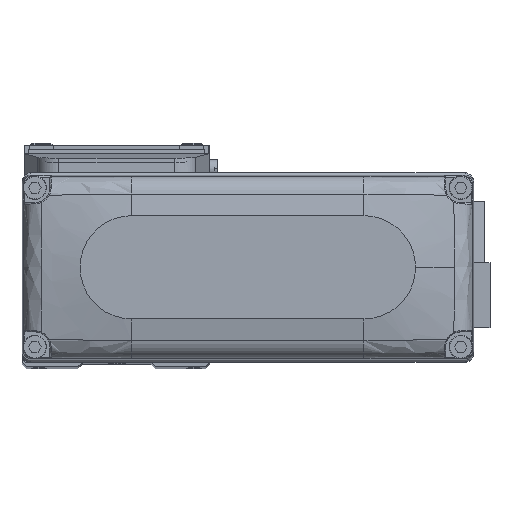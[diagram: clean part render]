
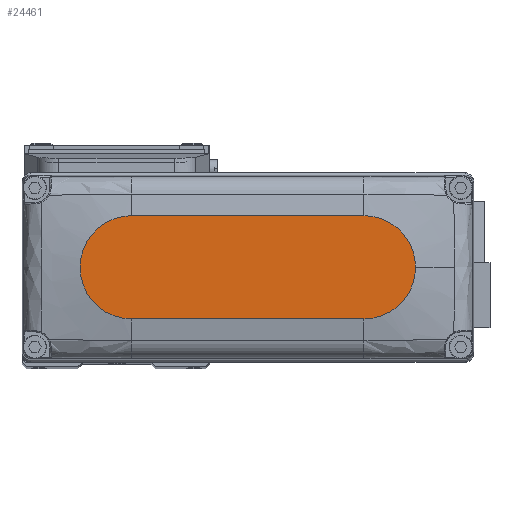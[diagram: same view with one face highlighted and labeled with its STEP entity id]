
A CAD part, top view. The second image highlights one B-rep face of the part: STEP entity #24461.
In plain terms, the highlighted planar face has unit normal (0, 0, 1).
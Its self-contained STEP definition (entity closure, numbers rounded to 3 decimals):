
#2947 = ORIENTED_EDGE ( 'NONE', *, *, #29170, .T. ) ;
#3656 = CIRCLE ( 'NONE', #25035, 12. ) ;
#4458 = AXIS2_PLACEMENT_3D ( 'NONE', #26429, #11314, #32158 ) ;
#5682 = CARTESIAN_POINT ( 'NONE',  ( -27., 12., 25. ) ) ;
#6579 = VECTOR ( 'NONE', #30666, 1000. ) ;
#7750 = AXIS2_PLACEMENT_3D ( 'NONE', #13844, #23274, #20316 ) ;
#9236 = EDGE_CURVE ( 'NONE', #28044, #19883, #3656, .T. ) ;
#10391 = VECTOR ( 'NONE', #26926, 1000. ) ;
#11277 = VERTEX_POINT ( 'NONE', #16826 ) ;
#11314 = DIRECTION ( 'NONE',  ( 0., 0., 1. ) ) ;
#12633 = VERTEX_POINT ( 'NONE', #27054 ) ;
#13844 = CARTESIAN_POINT ( 'NONE',  ( 27., 0., 25. ) ) ;
#14186 = DIRECTION ( 'NONE',  ( 0., 0., 1. ) ) ;
#14906 = CIRCLE ( 'NONE', #7750, 12. ) ;
#15673 = VERTEX_POINT ( 'NONE', #30373 ) ;
#16739 = CIRCLE ( 'NONE', #34382, 12. ) ;
#16826 = CARTESIAN_POINT ( 'NONE',  ( -27., -12., 25. ) ) ;
#17601 = FACE_OUTER_BOUND ( 'NONE', #31969, .T. ) ;
#18479 = CARTESIAN_POINT ( 'NONE',  ( -27., 0., 25. ) ) ;
#18591 = ORIENTED_EDGE ( 'NONE', *, *, #32785, .T. ) ;
#19290 = ORIENTED_EDGE ( 'NONE', *, *, #28288, .T. ) ;
#19883 = VERTEX_POINT ( 'NONE', #31333 ) ;
#20316 = DIRECTION ( 'NONE',  ( 1., 0., 0. ) ) ;
#21394 = CARTESIAN_POINT ( 'NONE',  ( -27., -12., 25. ) ) ;
#21418 = DIRECTION ( 'NONE',  ( 0., 0., 1. ) ) ;
#23274 = DIRECTION ( 'NONE',  ( 0., 0., 1. ) ) ;
#23996 = ORIENTED_EDGE ( 'NONE', *, *, #32065, .T. ) ;
#24378 = DIRECTION ( 'NONE',  ( 1., 0., 0. ) ) ;
#24461 = ADVANCED_FACE ( 'NONE', ( #17601 ), #29190, .T. ) ;
#25035 = AXIS2_PLACEMENT_3D ( 'NONE', #34852, #14186, #37611 ) ;
#25944 = CARTESIAN_POINT ( 'NONE',  ( 27., -12., 25. ) ) ;
#26429 = CARTESIAN_POINT ( 'NONE',  ( 0., 0., 25. ) ) ;
#26926 = DIRECTION ( 'NONE',  ( -1., 0., 0. ) ) ;
#27054 = CARTESIAN_POINT ( 'NONE',  ( -27., 12., 25. ) ) ;
#28044 = VERTEX_POINT ( 'NONE', #25944 ) ;
#28288 = EDGE_CURVE ( 'NONE', #11277, #28044, #33615, .T. ) ;
#29170 = EDGE_CURVE ( 'NONE', #15673, #12633, #35621, .T. ) ;
#29190 = PLANE ( 'NONE',  #4458 ) ;
#30373 = CARTESIAN_POINT ( 'NONE',  ( 27., 12., 25. ) ) ;
#30666 = DIRECTION ( 'NONE',  ( 1., 0., 0. ) ) ;
#31333 = CARTESIAN_POINT ( 'NONE',  ( 39., 0., 25. ) ) ;
#31969 = EDGE_LOOP ( 'NONE', ( #2947, #23996, #19290, #33792, #18591 ) ) ;
#32065 = EDGE_CURVE ( 'NONE', #12633, #11277, #16739, .T. ) ;
#32158 = DIRECTION ( 'NONE',  ( 1., 0., 0. ) ) ;
#32785 = EDGE_CURVE ( 'NONE', #19883, #15673, #14906, .T. ) ;
#33615 = LINE ( 'NONE', #21394, #6579 ) ;
#33792 = ORIENTED_EDGE ( 'NONE', *, *, #9236, .T. ) ;
#34382 = AXIS2_PLACEMENT_3D ( 'NONE', #18479, #21418, #24378 ) ;
#34852 = CARTESIAN_POINT ( 'NONE',  ( 27., 0., 25. ) ) ;
#35621 = LINE ( 'NONE', #5682, #10391 ) ;
#37611 = DIRECTION ( 'NONE',  ( 1., 0., 0. ) ) ;
